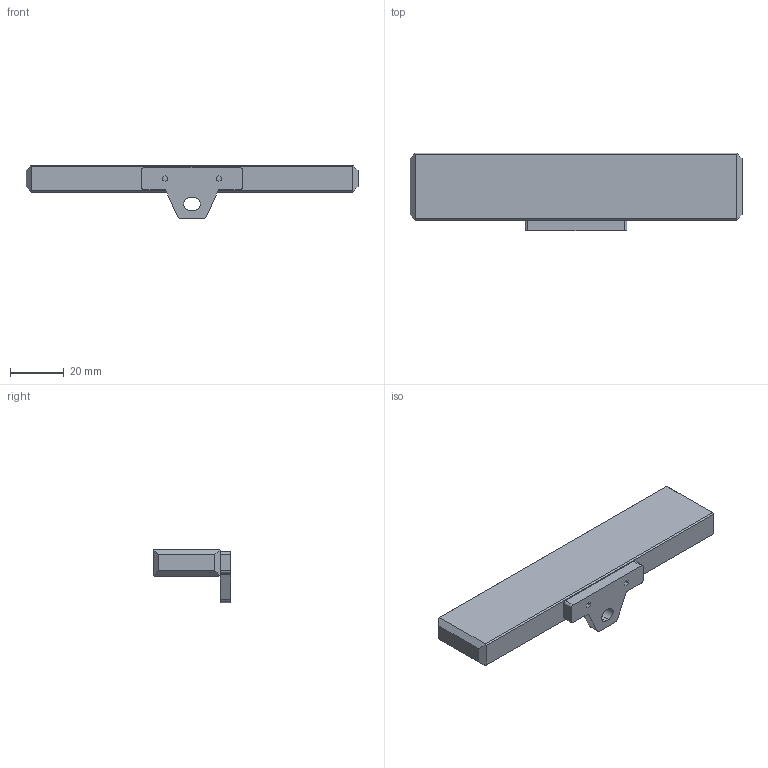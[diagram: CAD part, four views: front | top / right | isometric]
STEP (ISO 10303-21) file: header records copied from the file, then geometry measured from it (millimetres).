
FILE_DESCRIPTION((''),'2;1');
FILE_NAME('FG_VC_BASIC_C0026NP001','2026-02-23T17:11:27',('Admin'),(''),'CREO PARAMETRIC BY PTC INC, 2025010','CREO PARAMETRIC BY PTC INC, 2025010','');
FILE_SCHEMA(('CONFIG_CONTROL_DESIGN'));
Length unit declared in the file: millimetre
Products named in the file (1): FG_VC_BASIC_C0026NP001
Bounding box: 124 x 29 x 20 mm (x, y, z)
Volume: 32385.9 mm3; surface area: 9814.8 mm2
Topology: 1 solids, 5 shells, 78 faces, 198 edges, 126 vertices
Faces by surface type: plane 48, cylinder 22, cone 8
Entity records: 2348 total; most frequent: DIRECTION 398, CARTESIAN_POINT 398, ORIENTED_EDGE 388, EDGE_CURVE 194, VECTOR 146, LINE 146, AXIS2_PLACEMENT_3D 126, VERTEX_POINT 126
